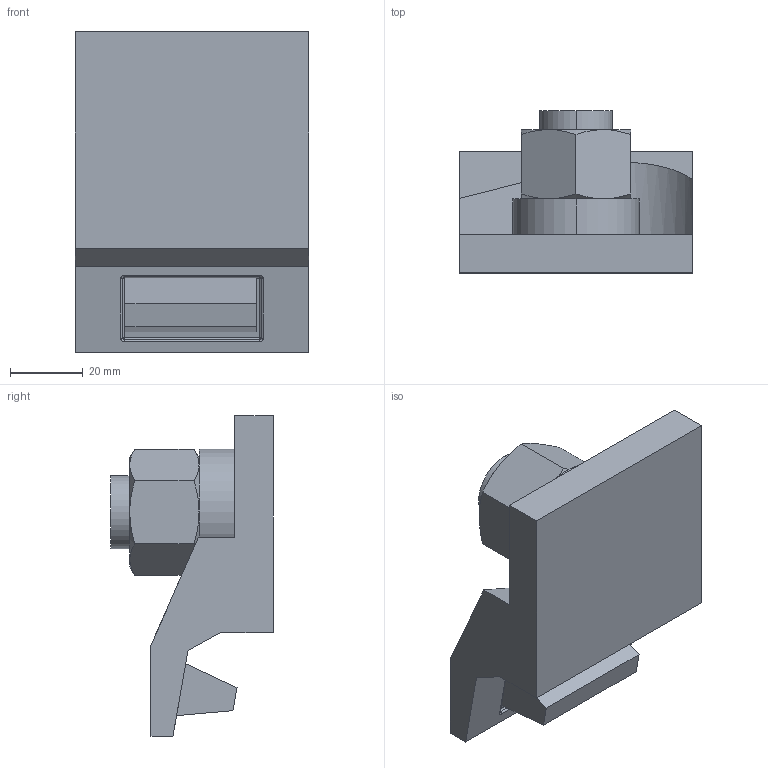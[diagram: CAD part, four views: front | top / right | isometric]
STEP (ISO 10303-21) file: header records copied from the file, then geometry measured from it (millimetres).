
FILE_DESCRIPTION (( 'STEP AP214' ), '1' );
FILE_NAME ('4120-15-33.STEP', '2020-10-14T09:44:51', ( '' ), ( '' ), 'SwSTEP 2.0', 'SolidWorks 2020', '' );
FILE_SCHEMA (( 'AUTOMOTIVE_DESIGN' ));
Length unit declared in the file: millimetre
Products named in the file (5): Washer m20; 36mm Nose; hex nut gradec_bsi_BS EN 24034 - M20 - N; 4120-15-33
Assembly tree (4 placements, depth 2):
  4120-15-33
    4120-15-33
    Washer m20
    hex nut gradec_bsi_BS EN 24034 - M20 - N
    36mm Nose
Bounding box: 64 x 44.5 x 88 mm (x, y, z)
Volume: 101410.3 mm3; surface area: 29092 mm2
Topology: 4 solids, 4 shells, 313 faces, 795 edges, 510 vertices
Faces by surface type: plane 174, bspline 78, cylinder 32, cone 16, sphere 9, torus 4
Entity records: 14936 total; most frequent: CARTESIAN_POINT 7951, ORIENTED_EDGE 1574, DIRECTION 1083, EDGE_CURVE 787, VERTEX_POINT 508, LINE 433, VECTOR 433, EDGE_LOOP 343
